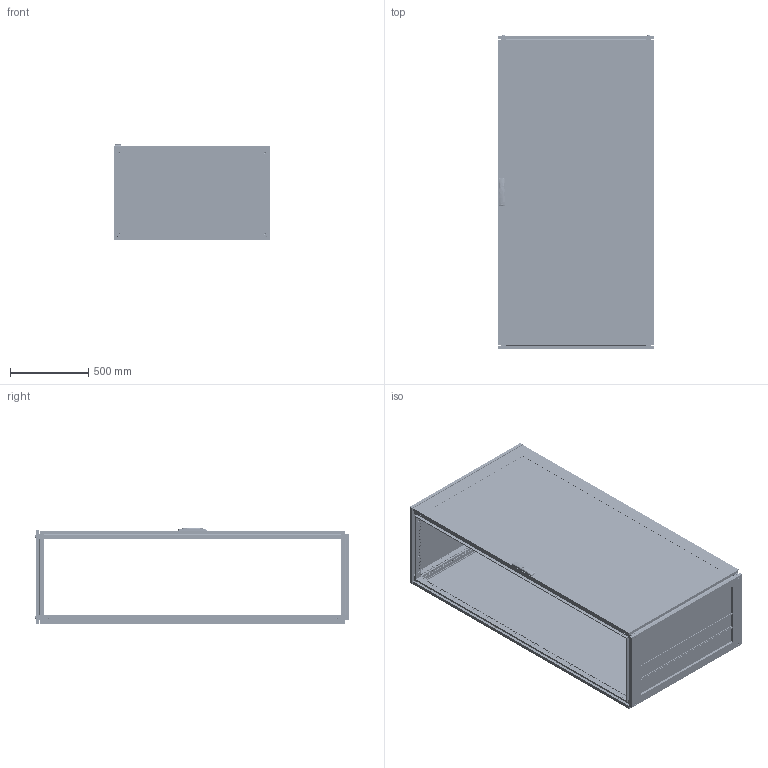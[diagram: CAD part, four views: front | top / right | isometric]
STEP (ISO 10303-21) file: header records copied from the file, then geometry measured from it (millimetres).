
FILE_DESCRIPTION (( 'STEP AP203' ), '1' );
FILE_NAME ('R5CQEN20106AX.STEP', '2025-05-07T12:03:40', ( '' ), ( '' ), 'SwSTEP 2.0', 'SolidWorks 2022', '' );
FILE_SCHEMA (( 'CONFIG_CONTROL_DESIGN' ));
Length unit declared in the file: millimetre
Products named in the file (66): Glass CPTE_2000x1000; RB.2172.00.00.1 simple; Pin 4x16 DIN 7 AISI 303 (A1) simple; RB.0528.00.01.0 simple_-05; 4.8x13 DIN 7981 PH Zinc_straight; RB.2528.00.00.0 simple_-05; TPA.08.0139.00.01.0 simple; RB.1633.00.02.0 simple_-02; TPA.08.0139.00.03.0; RB.2680.00.02.0 simple; RB.2457.00.00.0 СБ simple_-26; RB.2686.00.00.0 simple; PF 7,5x15 CPE simple_2000x1000; RB.0528.04.01.0 simple; TPA.08.0084.00.00.0 simple; RB.0054.01.01.0 simple_-25; R5NCRE-Assem simple_R5NCRE20100; RB.2685.00.00.0 simple_-02; RB.2357.00.00.0 simple_-07; Square cap 20x20 simple; RB.2680.00.01.0 simple; 7 DIN 6799 Zinc simple; M6x10 DIN 7500 M Torx cl.5.8 Zinc_straight; Pressing stud FH-M6-12_M6x12mm; Glue CPTE simple_2000x1000; M6x10 DIN 912 HX cl.8,8 Zinc_straight; TPA.08.0083.00.00.0 simple; RB.2702.00.00.0 simple; M6 MGR-MKO-0625 simple_Thread; М6х12 A5100231_straight; RB.2499.01.00.0 СБ simple_-25; R5CQEN20106AX; RB.0562.01.01.0 simple_-17; M12x16 ISO 7380-1 HX cl.4,8 Zinc_straight; RB.2968.00.00.0 simple; RB.0562.00.00.0 СБ simple_-17; PF 5x10 KTB simple_1000x600; R5NCPTE - Assem simple_R5NCPTE20100; M6x15 Erickson cl.4,8 Zinc; 7 DIN 6799 Zinc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
Assembly tree (176 placements, depth 5):
  R5CQEN20106AX
    R5NCPTE - Assem simple_R5NCPTE20100
      RB.0562.00.00.0 СБ simple_-17
        RB.0562.01.00.0 СБ simple_-17
          RB.0562.01.01.0 simple_-17
          М6х12 A5100231_straight  x9
          RB.2702.00.00.0 simple  x4
          PF 7,5x15 CPE simple_2000x1000
          Glass CPTE_2000x1000
          Glue CPTE simple_2000x1000
        Square cap 20x20 simple  x2
        M6x15 Erickson cl.4,8 Zinc  x3
        RB.0528.00.01.0 simple_-05  x2
        ATOS Traction guide ILY03.35  x4
        RB.2357.00.00.0 simple_-07
        RB.2680.00.00.0 СБ simple
          TPA.08.0139.00.01.0 simple
          RB.2680.00.01.0 simple
          RB.2680.00.02.0 simple  x2
        TPA.08.0139.00.03.0  x2
        M6 DIN 985 cl.6,0 Zinc_straight  x4
        4,0x16 F Torx Zinc (ART 88200)_thread  x2
        RB.0528.04.00.0 СБ simple  x2
          RB.0528.04.01.0 simple
          Pressing stud FH-M6-12_M6x12mm
      M6x10 DIN 912 HX cl.8,8 Zinc_straight  x8
      4.8x13 DIN 7981 PH Zinc_straight
      7 DIN 6799 Zinc simple  x4
      RB.2968.00.00.0 simple  x4
      RB.2969.00.00.0 СБ simple  x4
        RB.2969.00.01.0 simple
        Pin 4x16 DIN 7 AISI 303 (A1) simple
        M6 MGR-MKO-0625 simple_Thread
      AC00C446-R
      RB.2696.00.00.0 simple  x4
      7 DIN 6799 Zinc  x4
    R5NCRE-Assem simple_R5NCRE20100
      RB.2052.00.00.0 СБ simple_-25
        RB.2052.01.00.0 СБ simple_-25
          RB.0054.01.01.0 simple_-25
          М6х12 A5100231_straight  x4
        PF 7x14 CRE simple_2000x1000
      RB.2172.00.00.1 simple  x8
      M6x10 DIN 7500 E HX cl.5.8 Zinc_straight  x8
      M6x10 DIN 7500 M Torx cl.5.8 Zinc_straight  x8
    R5NKMN - Assem simple_R5NKMN20 (1000х600)
      RB.2528.00.00.0 simple_-05  x4
    R5NKTB - Assem simple_H=2000 R5NKTB106
      RB.2499.00.00.0 СБ simple_-26
        RB.2499.01.00.0 СБ simple_-25
          RB.1633.00.01.0 simple_-04  x2
          RB.1633.00.02.0 simple_-02  x2
          PF 5x10 KTB simple_1000x600
        RB.2457.00.00.0 СБ simple_-26
          RB.2455.00.00.0 simple_-04  x2
          RB.2456.00.00.0 simple_-02  x2
          TPA.08.0084.00.00.0 simple  x2
          TPA.08.0083.00.00.0 simple  x2
          M8x12 AC00C476 cl.8,8 Zinc_stright  x4
        RB.1957.00.00.0 simple_-15  x2
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Bounding box: 1000 x 2013.3 x 614.79 mm (x, y, z)
Volume: 21451710.8 mm3; surface area: 18255426.3 mm2
Topology: 179 solids, 195 shells, 23965 faces, 68151 edges, 44932 vertices
Faces by surface type: plane 13235, cylinder 9179, cone 714, bspline 435, torus 368, sphere 34
Entity records: 239436 total; most frequent: CARTESIAN_POINT 57964, ORIENTED_EDGE 36046, DIRECTION 34559, EDGE_CURVE 18049, VERTEX_POINT 11958, AXIS2_PLACEMENT_3D 11624, VECTOR 11311, LINE 11311
